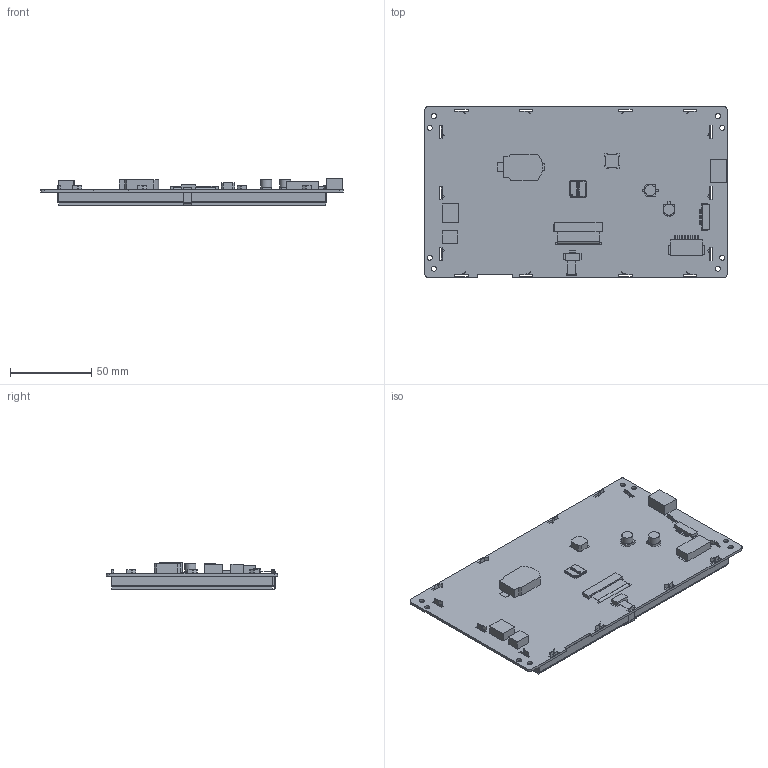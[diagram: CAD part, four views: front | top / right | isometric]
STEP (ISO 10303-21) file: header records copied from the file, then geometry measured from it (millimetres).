
FILE_DESCRIPTION(/* description */ (''),/* implementation_level */ '2;1');
FILE_NAME(/* name */ '',/* time_stamp */ '2023-07-26T18:28:40+08:00',/* author */ (''),/* organization */ (''),/* preprocessor_version */ 'ST-DEVELOPER v11',/* originating_system */ 'SIEMENS PLM Software NX 7.5',/* authorisation */ '');
FILE_SCHEMA (('AP203_CONFIGURATION_CONTROLLED_3D_DESIGN_OF_MECHANICAL_PARTS_AND_ASSEMBLIES_MIM_LF'));
Length unit declared in the file: millimetre
Products named in the file (1): 3D-SDWb070U74T_stp
Bounding box: 186.3 x 105.4 x 17.1 mm (x, y, z)
Volume: 163049.4 mm3; surface area: 127614.8 mm2
Topology: 23 solids, 23 shells, 1670 faces, 4728 edges, 3119 vertices
Faces by surface type: plane 1460, cylinder 203, bspline 7
Full cylindrical faces by diameter (mm): 3.2 x8, 6.776 x2
Entity records: 55909 total; most frequent: CARTESIAN_POINT 9939, ORIENTED_EDGE 9432, DIRECTION 8363, EDGE_CURVE 4716, LINE 4269, VECTOR 4269, VERTEX_POINT 3117, AXIS2_PLACEMENT_3D 2047
